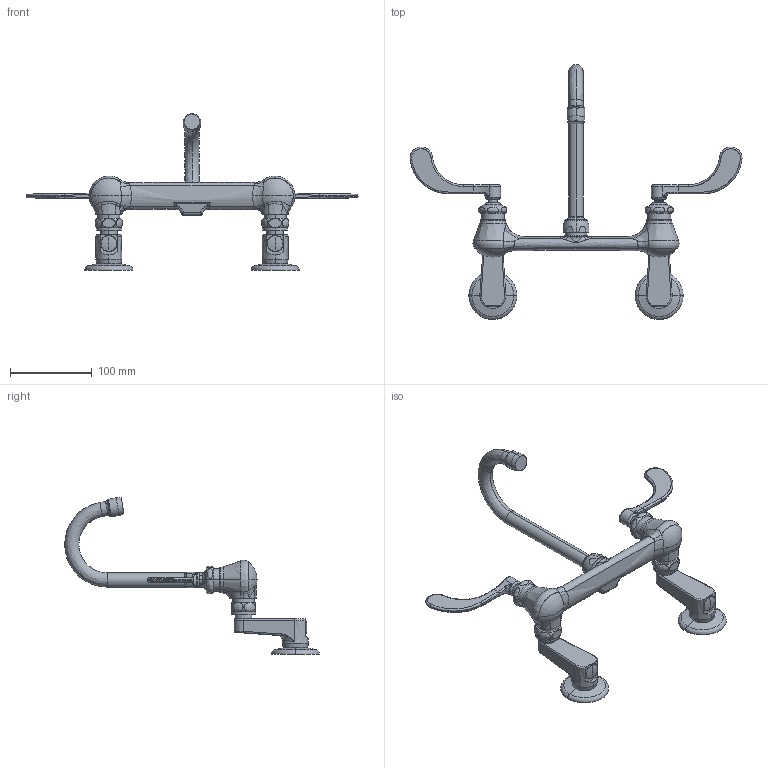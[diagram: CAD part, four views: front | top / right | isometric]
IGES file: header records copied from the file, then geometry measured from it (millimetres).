
Start section:  PTC IGES file: 631-RCP_REV100511.igs
Global section: file name: 631-RCP_REV100511.igs; native system: Pro/ENGINEER by Parametric Technology Corporation; preprocessor: 2010230; author: sdmitruk; organization: Unknown; date: 20111005.160827; units: inch
Bounding box: 407.16 x 312.39 x 192.23 mm (x, y, z)
Surface area: 112885.8 mm2 (no closed solid volume)
Topology: 0 solids, 0 shells, 430 faces, 2948 edges, 3854 vertices
Faces by surface type: bspline 225, revolution 205
